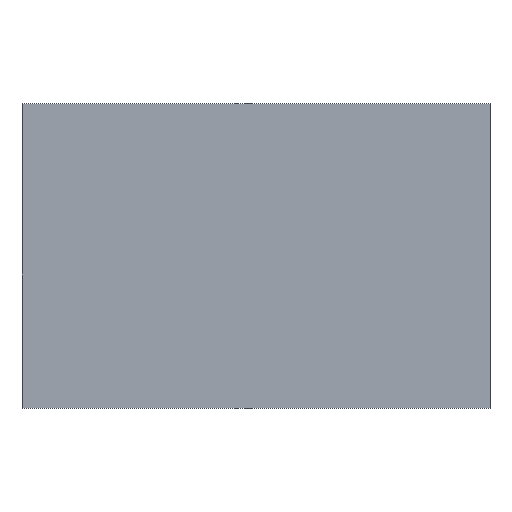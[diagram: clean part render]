
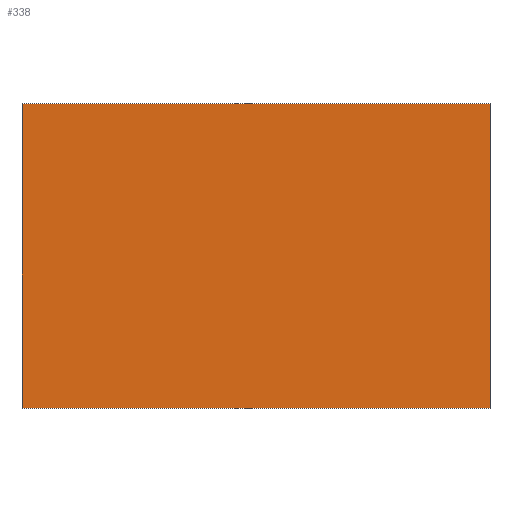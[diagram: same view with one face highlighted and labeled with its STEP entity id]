
A CAD part, top view. The second image highlights one B-rep face of the part: STEP entity #338.
In plain terms, the highlighted planar face has unit normal (0, 0, 1).
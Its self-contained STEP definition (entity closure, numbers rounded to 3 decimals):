
#21 = EDGE_CURVE('',#22,#24,#26,.T.);
#22 = VERTEX_POINT('',#23);
#23 = CARTESIAN_POINT('',(-50.,7.5,76.));
#24 = VERTEX_POINT('',#25);
#25 = CARTESIAN_POINT('',(-50.,-57.5,76.));
#26 = SURFACE_CURVE('',#27,(#31,#43),.PCURVE_S1.);
#27 = LINE('',#28,#29);
#28 = CARTESIAN_POINT('',(-50.,-57.5,76.));
#29 = VECTOR('',#30,1.);
#30 = DIRECTION('',(0.,-1.,0.));
#31 = PCURVE('',#32,#37);
#32 = PLANE('',#33);
#33 = AXIS2_PLACEMENT_3D('',#34,#35,#36);
#34 = CARTESIAN_POINT('',(-50.,-57.5,73.));
#35 = DIRECTION('',(1.,0.,0.));
#36 = DIRECTION('',(0.,0.,1.));
#37 = DEFINITIONAL_REPRESENTATION('',(#38),#42);
#38 = LINE('',#39,#40);
#39 = CARTESIAN_POINT('',(3.,0.));
#40 = VECTOR('',#41,1.);
#41 = DIRECTION('',(0.,1.));
#42 = ( GEOMETRIC_REPRESENTATION_CONTEXT(2) 
PARAMETRIC_REPRESENTATION_CONTEXT() REPRESENTATION_CONTEXT('2D SPACE',''
  ) );
#43 = PCURVE('',#44,#49);
#44 = PLANE('',#45);
#45 = AXIS2_PLACEMENT_3D('',#46,#47,#48);
#46 = CARTESIAN_POINT('',(-50.,-57.5,76.));
#47 = DIRECTION('',(0.,0.,1.));
#48 = DIRECTION('',(1.,0.,0.));
#49 = DEFINITIONAL_REPRESENTATION('',(#50),#54);
#50 = LINE('',#51,#52);
#51 = CARTESIAN_POINT('',(0.,0.));
#52 = VECTOR('',#53,1.);
#53 = DIRECTION('',(0.,-1.));
#54 = ( GEOMETRIC_REPRESENTATION_CONTEXT(2) 
PARAMETRIC_REPRESENTATION_CONTEXT() REPRESENTATION_CONTEXT('2D SPACE',''
  ) );
#72 = PLANE('',#73);
#73 = AXIS2_PLACEMENT_3D('',#74,#75,#76);
#74 = CARTESIAN_POINT('',(-50.,7.5,73.));
#75 = DIRECTION('',(0.,1.,0.));
#76 = DIRECTION('',(0.,0.,1.));
#126 = PLANE('',#127);
#127 = AXIS2_PLACEMENT_3D('',#128,#129,#130);
#128 = CARTESIAN_POINT('',(-50.,-57.5,73.));
#129 = DIRECTION('',(0.,1.,0.));
#130 = DIRECTION('',(0.,0.,1.));
#144 = VERTEX_POINT('',#145);
#145 = CARTESIAN_POINT('',(50.,-57.5,76.));
#152 = PLANE('',#153);
#153 = AXIS2_PLACEMENT_3D('',#154,#155,#156);
#154 = CARTESIAN_POINT('',(50.,-57.5,73.));
#155 = DIRECTION('',(1.,0.,0.));
#156 = DIRECTION('',(0.,0.,1.));
#195 = VERTEX_POINT('',#196);
#196 = CARTESIAN_POINT('',(50.,7.5,76.));
#217 = EDGE_CURVE('',#144,#195,#218,.T.);
#218 = SURFACE_CURVE('',#219,(#223,#230),.PCURVE_S1.);
#219 = LINE('',#220,#221);
#220 = CARTESIAN_POINT('',(50.,-57.5,76.));
#221 = VECTOR('',#222,1.);
#222 = DIRECTION('',(0.,1.,0.));
#223 = PCURVE('',#152,#224);
#224 = DEFINITIONAL_REPRESENTATION('',(#225),#229);
#225 = LINE('',#226,#227);
#226 = CARTESIAN_POINT('',(3.,0.));
#227 = VECTOR('',#228,1.);
#228 = DIRECTION('',(0.,-1.));
#229 = ( GEOMETRIC_REPRESENTATION_CONTEXT(2) 
PARAMETRIC_REPRESENTATION_CONTEXT() REPRESENTATION_CONTEXT('2D SPACE',''
  ) );
#230 = PCURVE('',#44,#231);
#231 = DEFINITIONAL_REPRESENTATION('',(#232),#236);
#232 = LINE('',#233,#234);
#233 = CARTESIAN_POINT('',(100.,0.));
#234 = VECTOR('',#235,1.);
#235 = DIRECTION('',(0.,1.));
#236 = ( GEOMETRIC_REPRESENTATION_CONTEXT(2) 
PARAMETRIC_REPRESENTATION_CONTEXT() REPRESENTATION_CONTEXT('2D SPACE',''
  ) );
#242 = EDGE_CURVE('',#24,#144,#243,.T.);
#243 = SURFACE_CURVE('',#244,(#248,#255),.PCURVE_S1.);
#244 = LINE('',#245,#246);
#245 = CARTESIAN_POINT('',(-50.,-57.5,76.));
#246 = VECTOR('',#247,1.);
#247 = DIRECTION('',(1.,0.,0.));
#248 = PCURVE('',#126,#249);
#249 = DEFINITIONAL_REPRESENTATION('',(#250),#254);
#250 = LINE('',#251,#252);
#251 = CARTESIAN_POINT('',(3.,0.));
#252 = VECTOR('',#253,1.);
#253 = DIRECTION('',(0.,1.));
#254 = ( GEOMETRIC_REPRESENTATION_CONTEXT(2) 
PARAMETRIC_REPRESENTATION_CONTEXT() REPRESENTATION_CONTEXT('2D SPACE',''
  ) );
#255 = PCURVE('',#44,#256);
#256 = DEFINITIONAL_REPRESENTATION('',(#257),#261);
#257 = LINE('',#258,#259);
#258 = CARTESIAN_POINT('',(0.,0.));
#259 = VECTOR('',#260,1.);
#260 = DIRECTION('',(1.,0.));
#261 = ( GEOMETRIC_REPRESENTATION_CONTEXT(2) 
PARAMETRIC_REPRESENTATION_CONTEXT() REPRESENTATION_CONTEXT('2D SPACE',''
  ) );
#310 = EDGE_CURVE('',#22,#195,#311,.T.);
#311 = SURFACE_CURVE('',#312,(#316,#323),.PCURVE_S1.);
#312 = LINE('',#313,#314);
#313 = CARTESIAN_POINT('',(-50.,7.5,76.));
#314 = VECTOR('',#315,1.);
#315 = DIRECTION('',(1.,0.,0.));
#316 = PCURVE('',#72,#317);
#317 = DEFINITIONAL_REPRESENTATION('',(#318),#322);
#318 = LINE('',#319,#320);
#319 = CARTESIAN_POINT('',(3.,0.));
#320 = VECTOR('',#321,1.);
#321 = DIRECTION('',(0.,1.));
#322 = ( GEOMETRIC_REPRESENTATION_CONTEXT(2) 
PARAMETRIC_REPRESENTATION_CONTEXT() REPRESENTATION_CONTEXT('2D SPACE',''
  ) );
#323 = PCURVE('',#44,#324);
#324 = DEFINITIONAL_REPRESENTATION('',(#325),#329);
#325 = LINE('',#326,#327);
#326 = CARTESIAN_POINT('',(0.,65.));
#327 = VECTOR('',#328,1.);
#328 = DIRECTION('',(1.,0.));
#329 = ( GEOMETRIC_REPRESENTATION_CONTEXT(2) 
PARAMETRIC_REPRESENTATION_CONTEXT() REPRESENTATION_CONTEXT('2D SPACE',''
  ) );
#338 = ADVANCED_FACE('',(#339),#44,.T.);
#339 = FACE_BOUND('',#340,.T.);
#340 = EDGE_LOOP('',(#341,#342,#343,#344));
#341 = ORIENTED_EDGE('',*,*,#21,.T.);
#342 = ORIENTED_EDGE('',*,*,#242,.T.);
#343 = ORIENTED_EDGE('',*,*,#217,.T.);
#344 = ORIENTED_EDGE('',*,*,#310,.F.);
